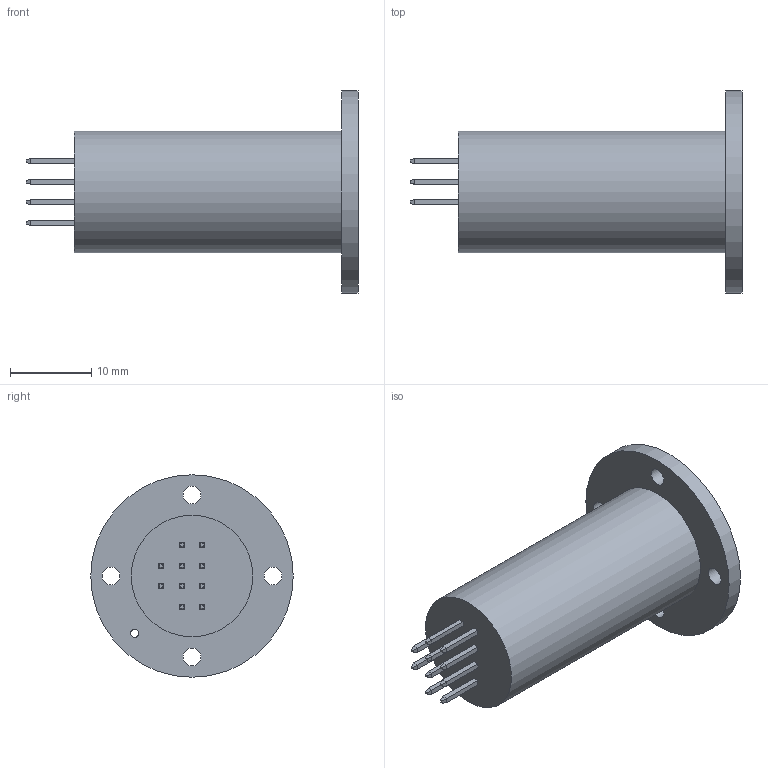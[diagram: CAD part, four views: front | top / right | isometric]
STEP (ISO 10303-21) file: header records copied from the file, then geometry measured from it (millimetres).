
FILE_DESCRIPTION(/* description */ (''),/* implementation_level */ '2;1');
FILE_NAME(/* name */ '\\nt01\DatenF\daten\PRODUKTE\TELEMETR\SV\Mechanik\CAD\5b\D15xL35\kunde\SV_5b_D15xL35.stp',/* time_stamp */ '2019-09-03T11:19:36+02:00',/* author */ ('dschaefer'),/* organization */ (''),/* preprocessor_version */ 'ST-DEVELOPER v16.5',/* originating_system */ 'Autodesk Inventor 2017',/* authorisation */ '');
FILE_SCHEMA (('AUTOMOTIVE_DESIGN { 1 0 10303 214 3 1 1 }'));
Length unit declared in the file: millimetre
Products named in the file (1): SV_5b_D15xL35
Bounding box: 40.98 x 25 x 25 mm (x, y, z)
Volume: 6751.1 mm3; surface area: 3076.7 mm2
Topology: 1 solids, 1 shells, 126 faces, 276 edges, 176 vertices
Faces by surface type: plane 106, cylinder 20
Full cylindrical faces by diameter (mm): 1 x12, 2.2 x4, 15 x1, 15.3 x1, 15.4 x1, 25 x1
Entity records: 3245 total; most frequent: DIRECTION 534, CARTESIAN_POINT 527, ORIENTED_EDGE 480, EDGE_CURVE 240, LINE 200, VECTOR 200, EDGE_LOOP 180, AXIS2_PLACEMENT_3D 167
